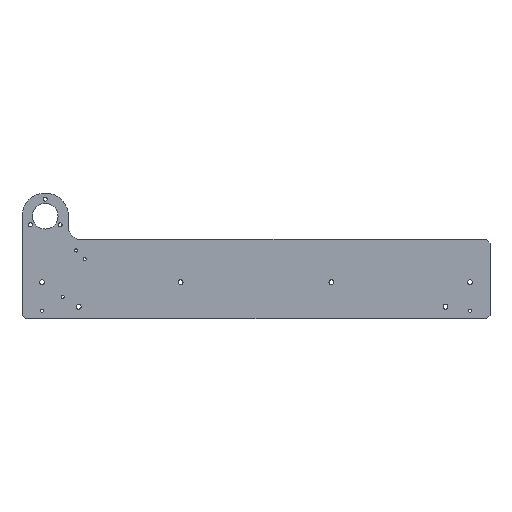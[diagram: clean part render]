
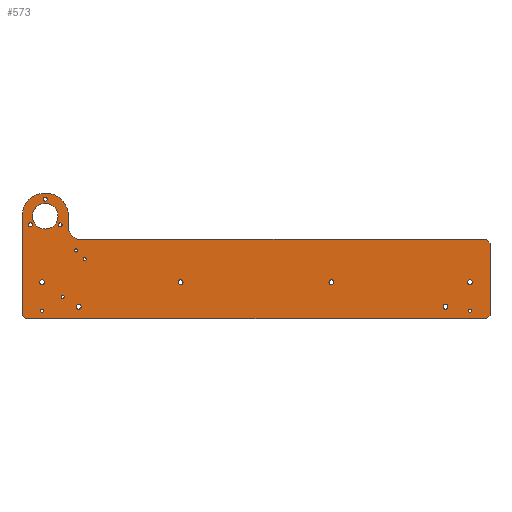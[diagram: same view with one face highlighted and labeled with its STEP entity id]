
A CAD part, top view. The second image highlights one B-rep face of the part: STEP entity #573.
In plain terms, the highlighted planar face has unit normal (0, 0, 1).
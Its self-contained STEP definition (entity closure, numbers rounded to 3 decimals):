
#30=FACE_BOUND('',#124,.T.);
#31=FACE_BOUND('',#125,.T.);
#32=FACE_BOUND('',#126,.T.);
#33=FACE_BOUND('',#127,.T.);
#34=FACE_BOUND('',#128,.T.);
#35=FACE_BOUND('',#129,.T.);
#36=FACE_BOUND('',#130,.T.);
#37=FACE_BOUND('',#131,.T.);
#38=FACE_BOUND('',#132,.T.);
#39=FACE_BOUND('',#133,.T.);
#40=FACE_BOUND('',#134,.T.);
#41=FACE_BOUND('',#135,.T.);
#42=FACE_BOUND('',#136,.T.);
#43=FACE_BOUND('',#137,.T.);
#44=FACE_BOUND('',#138,.T.);
#54=PLANE('',#648);
#81=FACE_OUTER_BOUND('',#123,.T.);
#123=EDGE_LOOP('',(#505,#506,#507,#508,#509,#510,#511,#512,#513,#514));
#124=EDGE_LOOP('',(#515));
#125=EDGE_LOOP('',(#516));
#126=EDGE_LOOP('',(#517));
#127=EDGE_LOOP('',(#518));
#128=EDGE_LOOP('',(#519));
#129=EDGE_LOOP('',(#520));
#130=EDGE_LOOP('',(#521));
#131=EDGE_LOOP('',(#522));
#132=EDGE_LOOP('',(#523));
#133=EDGE_LOOP('',(#524));
#134=EDGE_LOOP('',(#525));
#135=EDGE_LOOP('',(#526));
#136=EDGE_LOOP('',(#527));
#137=EDGE_LOOP('',(#528));
#138=EDGE_LOOP('',(#529));
#141=LINE('',#830,#182);
#152=LINE('',#882,#193);
#154=LINE('',#886,#195);
#156=LINE('',#890,#197);
#158=LINE('',#894,#199);
#165=LINE('',#913,#206);
#173=LINE('',#943,#214);
#174=LINE('',#946,#215);
#182=VECTOR('',#667,10.);
#193=VECTOR('',#712,10.);
#195=VECTOR('',#716,10.);
#197=VECTOR('',#720,10.);
#199=VECTOR('',#724,10.);
#206=VECTOR('',#745,10.);
#214=VECTOR('',#783,10.);
#215=VECTOR('',#786,10.);
#222=CIRCLE('',#590,1.25);
#224=CIRCLE('',#593,1.25);
#240=CIRCLE('',#616,2.);
#241=CIRCLE('',#618,2.);
#242=CIRCLE('',#620,10.);
#243=CIRCLE('',#623,1.25);
#244=CIRCLE('',#625,1.25);
#245=CIRCLE('',#627,1.25);
#246=CIRCLE('',#629,1.65);
#247=CIRCLE('',#631,10.5);
#248=CIRCLE('',#633,1.65);
#249=CIRCLE('',#635,1.65);
#250=CIRCLE('',#639,19.);
#251=CIRCLE('',#641,2.);
#252=CIRCLE('',#643,2.);
#253=CIRCLE('',#645,2.);
#254=CIRCLE('',#647,2.);
#256=VERTEX_POINT('',#818);
#258=VERTEX_POINT('',#824);
#259=VERTEX_POINT('',#828);
#260=VERTEX_POINT('',#829);
#284=VERTEX_POINT('',#881);
#285=VERTEX_POINT('',#885);
#286=VERTEX_POINT('',#889);
#287=VERTEX_POINT('',#893);
#288=VERTEX_POINT('',#897);
#289=VERTEX_POINT('',#901);
#290=VERTEX_POINT('',#905);
#291=VERTEX_POINT('',#907);
#292=VERTEX_POINT('',#911);
#293=VERTEX_POINT('',#915);
#294=VERTEX_POINT('',#919);
#295=VERTEX_POINT('',#923);
#296=VERTEX_POINT('',#927);
#297=VERTEX_POINT('',#931);
#298=VERTEX_POINT('',#935);
#299=VERTEX_POINT('',#939);
#300=VERTEX_POINT('',#945);
#301=VERTEX_POINT('',#951);
#302=VERTEX_POINT('',#955);
#303=VERTEX_POINT('',#959);
#304=VERTEX_POINT('',#963);
#307=EDGE_CURVE('',#256,#256,#222,.T.);
#310=EDGE_CURVE('',#258,#258,#224,.T.);
#311=EDGE_CURVE('',#259,#260,#141,.T.);
#337=EDGE_CURVE('',#284,#260,#152,.T.);
#339=EDGE_CURVE('',#284,#285,#154,.T.);
#341=EDGE_CURVE('',#286,#285,#156,.T.);
#343=EDGE_CURVE('',#286,#287,#158,.T.);
#346=EDGE_CURVE('',#288,#288,#240,.T.);
#348=EDGE_CURVE('',#289,#289,#241,.T.);
#350=EDGE_CURVE('',#290,#291,#242,.T.);
#353=EDGE_CURVE('',#290,#292,#165,.T.);
#355=EDGE_CURVE('',#293,#293,#243,.T.);
#357=EDGE_CURVE('',#294,#294,#244,.T.);
#359=EDGE_CURVE('',#295,#295,#245,.T.);
#360=EDGE_CURVE('',#296,#296,#246,.T.);
#362=EDGE_CURVE('',#297,#297,#247,.T.);
#364=EDGE_CURVE('',#298,#298,#248,.T.);
#366=EDGE_CURVE('',#299,#299,#249,.T.);
#368=EDGE_CURVE('',#259,#291,#173,.T.);
#369=EDGE_CURVE('',#300,#287,#174,.T.);
#371=EDGE_CURVE('',#292,#300,#250,.T.);
#373=EDGE_CURVE('',#301,#301,#251,.F.);
#375=EDGE_CURVE('',#302,#302,#252,.F.);
#376=EDGE_CURVE('',#303,#303,#253,.T.);
#378=EDGE_CURVE('',#304,#304,#254,.T.);
#505=ORIENTED_EDGE('',*,*,#311,.F.);
#506=ORIENTED_EDGE('',*,*,#368,.T.);
#507=ORIENTED_EDGE('',*,*,#350,.F.);
#508=ORIENTED_EDGE('',*,*,#353,.T.);
#509=ORIENTED_EDGE('',*,*,#371,.T.);
#510=ORIENTED_EDGE('',*,*,#369,.T.);
#511=ORIENTED_EDGE('',*,*,#343,.F.);
#512=ORIENTED_EDGE('',*,*,#341,.T.);
#513=ORIENTED_EDGE('',*,*,#339,.F.);
#514=ORIENTED_EDGE('',*,*,#337,.T.);
#515=ORIENTED_EDGE('',*,*,#307,.T.);
#516=ORIENTED_EDGE('',*,*,#310,.T.);
#517=ORIENTED_EDGE('',*,*,#346,.T.);
#518=ORIENTED_EDGE('',*,*,#348,.T.);
#519=ORIENTED_EDGE('',*,*,#355,.T.);
#520=ORIENTED_EDGE('',*,*,#357,.T.);
#521=ORIENTED_EDGE('',*,*,#359,.T.);
#522=ORIENTED_EDGE('',*,*,#360,.T.);
#523=ORIENTED_EDGE('',*,*,#362,.T.);
#524=ORIENTED_EDGE('',*,*,#364,.T.);
#525=ORIENTED_EDGE('',*,*,#366,.T.);
#526=ORIENTED_EDGE('',*,*,#373,.T.);
#527=ORIENTED_EDGE('',*,*,#375,.T.);
#528=ORIENTED_EDGE('',*,*,#378,.T.);
#529=ORIENTED_EDGE('',*,*,#376,.T.);
#573=ADVANCED_FACE('',(#81,#30,#31,#32,#33,#34,#35,#36,#37,#38,#39,#40,
#41,#42,#43,#44),#54,.T.);
#590=AXIS2_PLACEMENT_3D('',#820,#656,#657);
#593=AXIS2_PLACEMENT_3D('',#826,#663,#664);
#616=AXIS2_PLACEMENT_3D('',#899,#729,#730);
#618=AXIS2_PLACEMENT_3D('',#903,#734,#735);
#620=AXIS2_PLACEMENT_3D('',#908,#739,#740);
#623=AXIS2_PLACEMENT_3D('',#917,#749,#750);
#625=AXIS2_PLACEMENT_3D('',#921,#754,#755);
#627=AXIS2_PLACEMENT_3D('',#925,#759,#760);
#629=AXIS2_PLACEMENT_3D('',#928,#763,#764);
#631=AXIS2_PLACEMENT_3D('',#932,#768,#769);
#633=AXIS2_PLACEMENT_3D('',#936,#773,#774);
#635=AXIS2_PLACEMENT_3D('',#940,#778,#779);
#639=AXIS2_PLACEMENT_3D('',#949,#790,#791);
#641=AXIS2_PLACEMENT_3D('',#953,#795,#796);
#643=AXIS2_PLACEMENT_3D('',#957,#800,#801);
#645=AXIS2_PLACEMENT_3D('',#960,#804,#805);
#647=AXIS2_PLACEMENT_3D('',#964,#809,#810);
#648=AXIS2_PLACEMENT_3D('',#966,#812,#813);
#656=DIRECTION('center_axis',(0.,0.,-1.));
#657=DIRECTION('ref_axis',(1.,0.,0.));
#663=DIRECTION('center_axis',(0.,0.,-1.));
#664=DIRECTION('ref_axis',(1.,0.,0.));
#667=DIRECTION('',(0.707,-0.707,0.));
#712=DIRECTION('',(0.,1.,0.));
#716=DIRECTION('',(-0.707,-0.707,0.));
#720=DIRECTION('',(1.,0.,0.));
#724=DIRECTION('',(-0.707,0.707,0.));
#729=DIRECTION('center_axis',(0.,0.,-1.));
#730=DIRECTION('ref_axis',(1.,0.,0.));
#734=DIRECTION('center_axis',(0.,0.,-1.));
#735=DIRECTION('ref_axis',(1.,0.,0.));
#739=DIRECTION('center_axis',(0.,0.,1.));
#740=DIRECTION('ref_axis',(-0.707,-0.707,0.));
#745=DIRECTION('',(0.,1.,0.));
#749=DIRECTION('center_axis',(0.,0.,-1.));
#750=DIRECTION('ref_axis',(1.,0.,0.));
#754=DIRECTION('center_axis',(0.,0.,-1.));
#755=DIRECTION('ref_axis',(1.,0.,0.));
#759=DIRECTION('center_axis',(0.,0.,-1.));
#760=DIRECTION('ref_axis',(1.,0.,0.));
#763=DIRECTION('center_axis',(0.,0.,-1.));
#764=DIRECTION('ref_axis',(1.,0.,0.));
#768=DIRECTION('center_axis',(0.,0.,-1.));
#769=DIRECTION('ref_axis',(1.,0.,0.));
#773=DIRECTION('center_axis',(0.,0.,-1.));
#774=DIRECTION('ref_axis',(1.,0.,0.));
#778=DIRECTION('center_axis',(0.,0.,-1.));
#779=DIRECTION('ref_axis',(1.,0.,0.));
#783=DIRECTION('',(-1.,0.,0.));
#786=DIRECTION('',(0.,-1.,0.));
#790=DIRECTION('center_axis',(0.,0.,1.));
#791=DIRECTION('ref_axis',(1.,0.,0.));
#795=DIRECTION('center_axis',(0.,0.,1.));
#796=DIRECTION('ref_axis',(1.,0.,0.));
#800=DIRECTION('center_axis',(0.,0.,1.));
#801=DIRECTION('ref_axis',(1.,0.,0.));
#804=DIRECTION('center_axis',(0.,0.,-1.));
#805=DIRECTION('ref_axis',(1.,0.,0.));
#809=DIRECTION('center_axis',(0.,0.,-1.));
#810=DIRECTION('ref_axis',(1.,0.,0.));
#812=DIRECTION('center_axis',(0.,0.,1.));
#813=DIRECTION('ref_axis',(1.,0.,0.));
#818=CARTESIAN_POINT('',(51.75,36.,4.));
#820=CARTESIAN_POINT('Origin',(53.,36.,4.));
#824=CARTESIAN_POINT('',(58.75,29.,4.));
#826=CARTESIAN_POINT('Origin',(60.,29.,4.));
#828=CARTESIAN_POINT('',(388.35,45.,4.));
#829=CARTESIAN_POINT('',(391.35,42.,4.));
#830=CARTESIAN_POINT('',(348.262,85.088,4.));
#881=CARTESIAN_POINT('',(391.35,-17.,4.));
#882=CARTESIAN_POINT('',(391.35,10.,4.));
#885=CARTESIAN_POINT('',(388.35,-20.,4.));
#886=CARTESIAN_POINT('',(352.013,-56.337,4.));
#889=CARTESIAN_POINT('',(11.65,-20.,4.));
#890=CARTESIAN_POINT('',(100.,-20.,4.));
#893=CARTESIAN_POINT('',(8.65,-17.,4.));
#894=CARTESIAN_POINT('',(47.987,-56.338,4.));
#897=CARTESIAN_POINT('',(373.,10.,4.));
#899=CARTESIAN_POINT('Origin',(375.,10.,4.));
#901=CARTESIAN_POINT('',(23.,10.,4.));
#903=CARTESIAN_POINT('Origin',(25.,10.,4.));
#905=CARTESIAN_POINT('',(46.65,55.,4.));
#907=CARTESIAN_POINT('',(56.65,45.,4.));
#908=CARTESIAN_POINT('Origin',(56.65,55.,4.));
#911=CARTESIAN_POINT('',(46.65,64.,4.));
#913=CARTESIAN_POINT('',(46.65,32.5,4.));
#915=CARTESIAN_POINT('',(373.75,-13.4,4.));
#917=CARTESIAN_POINT('Origin',(375.,-13.4,4.));
#919=CARTESIAN_POINT('',(40.65,-1.8,4.));
#921=CARTESIAN_POINT('Origin',(41.9,-1.8,4.));
#923=CARTESIAN_POINT('',(23.75,-13.4,4.));
#925=CARTESIAN_POINT('Origin',(25.,-13.4,4.));
#927=CARTESIAN_POINT('',(26.,78.,4.));
#928=CARTESIAN_POINT('Origin',(27.65,78.,4.));
#931=CARTESIAN_POINT('',(17.15,64.,4.));
#932=CARTESIAN_POINT('Origin',(27.65,64.,4.));
#935=CARTESIAN_POINT('',(13.876,57.,4.));
#936=CARTESIAN_POINT('Origin',(15.526,57.,4.));
#939=CARTESIAN_POINT('',(38.124,57.,4.));
#940=CARTESIAN_POINT('Origin',(39.774,57.,4.));
#943=CARTESIAN_POINT('',(295.,45.,4.));
#945=CARTESIAN_POINT('',(8.65,64.,4.));
#946=CARTESIAN_POINT('',(8.65,42.,4.));
#949=CARTESIAN_POINT('Origin',(27.65,64.,4.));
#951=CARTESIAN_POINT('',(353.,-10.,4.));
#953=CARTESIAN_POINT('Origin',(355.,-10.,4.));
#955=CARTESIAN_POINT('',(53.,-10.,4.));
#957=CARTESIAN_POINT('Origin',(55.,-10.,4.));
#959=CARTESIAN_POINT('',(259.667,10.,4.));
#960=CARTESIAN_POINT('Origin',(261.667,10.,4.));
#963=CARTESIAN_POINT('',(136.333,10.,4.));
#964=CARTESIAN_POINT('Origin',(138.333,10.,4.));
#966=CARTESIAN_POINT('Origin',(200.,20.,4.));
